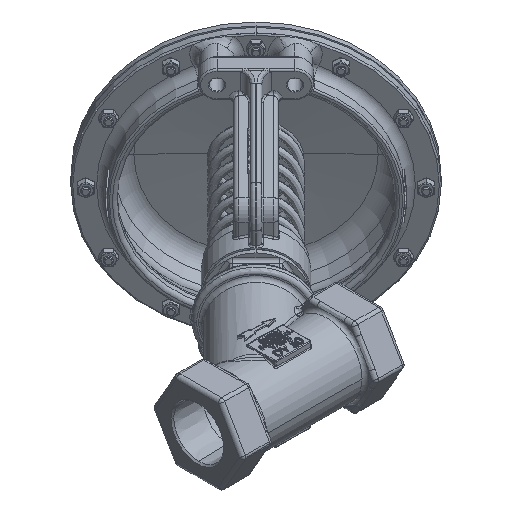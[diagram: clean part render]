
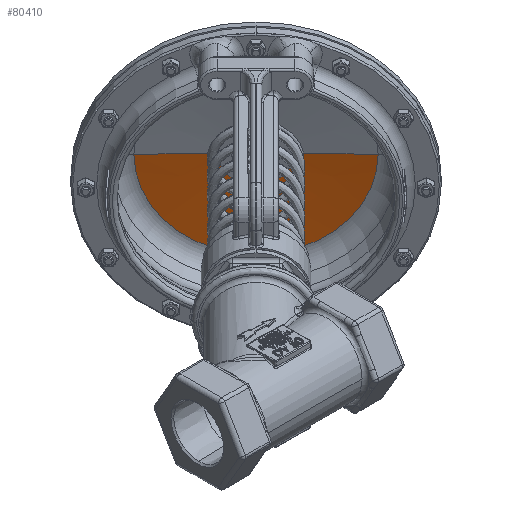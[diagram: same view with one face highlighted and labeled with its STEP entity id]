
A CAD part, isometric view. The second image highlights one B-rep face of the part: STEP entity #80410.
In plain terms, the highlighted conical face has half-angle 88 degrees and reference radius 79.692 mm.
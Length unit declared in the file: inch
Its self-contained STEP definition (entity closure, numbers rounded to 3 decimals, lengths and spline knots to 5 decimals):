
#8112 = CARTESIAN_POINT ( 'NONE',  ( 0., -0.177, -0.99682 ) ) ;
#11899 = DIRECTION ( 'NONE',  ( 0., 0., -1. ) ) ;
#11900 = DIRECTION ( 'NONE',  ( 0., -1., 0. ) ) ;
#11903 = CARTESIAN_POINT ( 'NONE',  ( 0., -0.25175, 0. ) ) ;
#12320 = CARTESIAN_POINT ( 'NONE',  ( 0., -0.177, 0.99682 ) ) ;
#12322 = CARTESIAN_POINT ( 'NONE',  ( 0., -0.25175, -3.1375 ) ) ;
#12323 = CARTESIAN_POINT ( 'NONE',  ( 0., -0.25175, 3.1375 ) ) ;
#34719 = ORIENTED_EDGE ( 'NONE', *, *, #99612, .F. ) ;
#34735 = ORIENTED_EDGE ( 'NONE', *, *, #99611, .T. ) ;
#34737 = ORIENTED_EDGE ( 'NONE', *, *, #99613, .F. ) ;
#34789 = ORIENTED_EDGE ( 'NONE', *, *, #99610, .T. ) ;
#48848 = CIRCLE ( 'NONE', #108293, 0.99682 ) ;
#48850 = LINE ( 'NONE', #56177, #48856 ) ;
#48852 = LINE ( 'NONE', #56187, #48863 ) ;
#48854 = CIRCLE ( 'NONE', #108295, 3.1375 ) ;
#48856 = VECTOR ( 'NONE', #56154, 39.37008 ) ;
#48863 = VECTOR ( 'NONE', #56146, 39.37008 ) ;
#56146 = DIRECTION ( 'NONE',  ( 0., -0.035, -0.999 ) ) ;
#56154 = DIRECTION ( 'NONE',  ( 0., -0.035, 0.999 ) ) ;
#56177 = CARTESIAN_POINT ( 'NONE',  ( 0., -0.25175, 3.1375 ) ) ;
#56179 = CARTESIAN_POINT ( 'NONE',  ( 0., -0.177, 0. ) ) ;
#56180 = DIRECTION ( 'NONE',  ( 0., 1., 0. ) ) ;
#56182 = DIRECTION ( 'NONE',  ( 0., 0., 1. ) ) ;
#56187 = CARTESIAN_POINT ( 'NONE',  ( 0., -0.25175, -3.1375 ) ) ;
#56189 = CARTESIAN_POINT ( 'NONE',  ( 0., -0.25175, 0. ) ) ;
#56190 = DIRECTION ( 'NONE',  ( 0., 1., 0. ) ) ;
#56192 = DIRECTION ( 'NONE',  ( 0., 0., 1. ) ) ;
#65655 = VERTEX_POINT ( 'NONE', #8112 ) ;
#66927 = EDGE_LOOP ( 'NONE', ( #34789, #34735, #34719, #34737 ) ) ;
#80410 = ADVANCED_FACE ( 'NONE', ( #88655 ), #88676, .F. ) ;
#83715 = VERTEX_POINT ( 'NONE', #12320 ) ;
#83717 = VERTEX_POINT ( 'NONE', #12322 ) ;
#83718 = VERTEX_POINT ( 'NONE', #12323 ) ;
#88655 = FACE_OUTER_BOUND ( 'NONE', #66927, .T. ) ;
#88676 = CONICAL_SURFACE ( 'NONE', #106327, 3.1375, 1.536 ) ;
#99610 = EDGE_CURVE ( 'NONE', #65655, #83715, #48848, .T. ) ;
#99611 = EDGE_CURVE ( 'NONE', #83715, #83718, #48850, .T. ) ;
#99612 = EDGE_CURVE ( 'NONE', #83717, #83718, #48854, .T. ) ;
#99613 = EDGE_CURVE ( 'NONE', #65655, #83717, #48852, .T. ) ;
#106327 = AXIS2_PLACEMENT_3D ( 'NONE', #11903, #11900, #11899 ) ;
#108293 = AXIS2_PLACEMENT_3D ( 'NONE', #56179, #56180, #56182 ) ;
#108295 = AXIS2_PLACEMENT_3D ( 'NONE', #56189, #56190, #56192 ) ;
